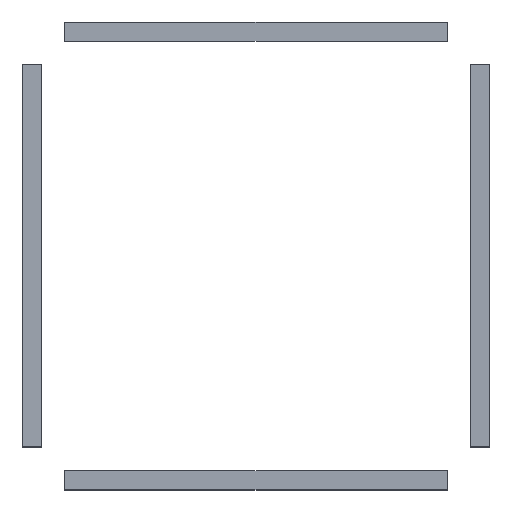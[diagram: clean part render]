
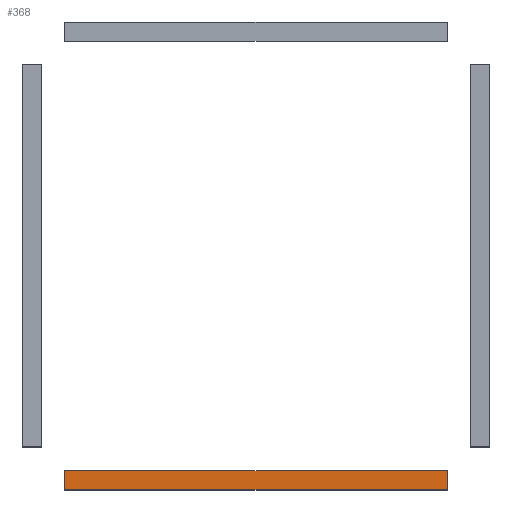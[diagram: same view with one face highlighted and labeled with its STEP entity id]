
A CAD part, top view. The second image highlights one B-rep face of the part: STEP entity #368.
In plain terms, the highlighted planar face has unit normal (0, 0, 1).
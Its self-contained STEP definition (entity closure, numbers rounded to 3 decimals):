
#54 = VERTEX_POINT('',#55);
#55 = CARTESIAN_POINT('',(-40.,-2.,1.5));
#62 = PLANE('',#63);
#63 = AXIS2_PLACEMENT_3D('',#64,#65,#66);
#64 = CARTESIAN_POINT('',(-40.,-2.,-1.5));
#65 = DIRECTION('',(1.,0.,-0.));
#66 = DIRECTION('',(0.,0.,1.));
#74 = PLANE('',#75);
#75 = AXIS2_PLACEMENT_3D('',#76,#77,#78);
#76 = CARTESIAN_POINT('',(-40.,-2.,-1.5));
#77 = DIRECTION('',(-0.,1.,0.));
#78 = DIRECTION('',(0.,0.,1.));
#115 = VERTEX_POINT('',#116);
#116 = CARTESIAN_POINT('',(-40.,2.,1.5));
#130 = PLANE('',#131);
#131 = AXIS2_PLACEMENT_3D('',#132,#133,#134);
#132 = CARTESIAN_POINT('',(-40.,2.,-1.5));
#133 = DIRECTION('',(-0.,1.,0.));
#134 = DIRECTION('',(0.,0.,1.));
#142 = EDGE_CURVE('',#54,#115,#143,.T.);
#143 = SURFACE_CURVE('',#144,(#148,#155),.PCURVE_S1.);
#144 = LINE('',#145,#146);
#145 = CARTESIAN_POINT('',(-40.,-2.,1.5));
#146 = VECTOR('',#147,1.);
#147 = DIRECTION('',(-0.,1.,0.));
#148 = PCURVE('',#62,#149);
#149 = DEFINITIONAL_REPRESENTATION('',(#150),#154);
#150 = LINE('',#151,#152);
#151 = CARTESIAN_POINT('',(3.,0.));
#152 = VECTOR('',#153,1.);
#153 = DIRECTION('',(0.,-1.));
#154 = ( GEOMETRIC_REPRESENTATION_CONTEXT(2) 
PARAMETRIC_REPRESENTATION_CONTEXT() REPRESENTATION_CONTEXT('2D SPACE',''
  ) );
#155 = PCURVE('',#156,#161);
#156 = PLANE('',#157);
#157 = AXIS2_PLACEMENT_3D('',#158,#159,#160);
#158 = CARTESIAN_POINT('',(-40.,-2.,1.5));
#159 = DIRECTION('',(0.,0.,1.));
#160 = DIRECTION('',(1.,0.,-0.));
#161 = DEFINITIONAL_REPRESENTATION('',(#162),#166);
#162 = LINE('',#163,#164);
#163 = CARTESIAN_POINT('',(0.,0.));
#164 = VECTOR('',#165,1.);
#165 = DIRECTION('',(0.,1.));
#166 = ( GEOMETRIC_REPRESENTATION_CONTEXT(2) 
PARAMETRIC_REPRESENTATION_CONTEXT() REPRESENTATION_CONTEXT('2D SPACE',''
  ) );
#174 = VERTEX_POINT('',#175);
#175 = CARTESIAN_POINT('',(40.,-2.,1.5));
#182 = PLANE('',#183);
#183 = AXIS2_PLACEMENT_3D('',#184,#185,#186);
#184 = CARTESIAN_POINT('',(40.,-2.,-1.5));
#185 = DIRECTION('',(1.,0.,-0.));
#186 = DIRECTION('',(0.,0.,1.));
#225 = VERTEX_POINT('',#226);
#226 = CARTESIAN_POINT('',(40.,2.,1.5));
#247 = EDGE_CURVE('',#174,#225,#248,.T.);
#248 = SURFACE_CURVE('',#249,(#253,#260),.PCURVE_S1.);
#249 = LINE('',#250,#251);
#250 = CARTESIAN_POINT('',(40.,-2.,1.5));
#251 = VECTOR('',#252,1.);
#252 = DIRECTION('',(-0.,1.,0.));
#253 = PCURVE('',#182,#254);
#254 = DEFINITIONAL_REPRESENTATION('',(#255),#259);
#255 = LINE('',#256,#257);
#256 = CARTESIAN_POINT('',(3.,0.));
#257 = VECTOR('',#258,1.);
#258 = DIRECTION('',(0.,-1.));
#259 = ( GEOMETRIC_REPRESENTATION_CONTEXT(2) 
PARAMETRIC_REPRESENTATION_CONTEXT() REPRESENTATION_CONTEXT('2D SPACE',''
  ) );
#260 = PCURVE('',#156,#261);
#261 = DEFINITIONAL_REPRESENTATION('',(#262),#266);
#262 = LINE('',#263,#264);
#263 = CARTESIAN_POINT('',(80.,0.));
#264 = VECTOR('',#265,1.);
#265 = DIRECTION('',(0.,1.));
#266 = ( GEOMETRIC_REPRESENTATION_CONTEXT(2) 
PARAMETRIC_REPRESENTATION_CONTEXT() REPRESENTATION_CONTEXT('2D SPACE',''
  ) );
#293 = EDGE_CURVE('',#54,#174,#294,.T.);
#294 = SURFACE_CURVE('',#295,(#299,#306),.PCURVE_S1.);
#295 = LINE('',#296,#297);
#296 = CARTESIAN_POINT('',(-40.,-2.,1.5));
#297 = VECTOR('',#298,1.);
#298 = DIRECTION('',(1.,0.,-0.));
#299 = PCURVE('',#74,#300);
#300 = DEFINITIONAL_REPRESENTATION('',(#301),#305);
#301 = LINE('',#302,#303);
#302 = CARTESIAN_POINT('',(3.,0.));
#303 = VECTOR('',#304,1.);
#304 = DIRECTION('',(0.,1.));
#305 = ( GEOMETRIC_REPRESENTATION_CONTEXT(2) 
PARAMETRIC_REPRESENTATION_CONTEXT() REPRESENTATION_CONTEXT('2D SPACE',''
  ) );
#306 = PCURVE('',#156,#307);
#307 = DEFINITIONAL_REPRESENTATION('',(#308),#312);
#308 = LINE('',#309,#310);
#309 = CARTESIAN_POINT('',(0.,0.));
#310 = VECTOR('',#311,1.);
#311 = DIRECTION('',(1.,0.));
#312 = ( GEOMETRIC_REPRESENTATION_CONTEXT(2) 
PARAMETRIC_REPRESENTATION_CONTEXT() REPRESENTATION_CONTEXT('2D SPACE',''
  ) );
#340 = EDGE_CURVE('',#115,#225,#341,.T.);
#341 = SURFACE_CURVE('',#342,(#346,#353),.PCURVE_S1.);
#342 = LINE('',#343,#344);
#343 = CARTESIAN_POINT('',(-40.,2.,1.5));
#344 = VECTOR('',#345,1.);
#345 = DIRECTION('',(1.,0.,-0.));
#346 = PCURVE('',#130,#347);
#347 = DEFINITIONAL_REPRESENTATION('',(#348),#352);
#348 = LINE('',#349,#350);
#349 = CARTESIAN_POINT('',(3.,0.));
#350 = VECTOR('',#351,1.);
#351 = DIRECTION('',(0.,1.));
#352 = ( GEOMETRIC_REPRESENTATION_CONTEXT(2) 
PARAMETRIC_REPRESENTATION_CONTEXT() REPRESENTATION_CONTEXT('2D SPACE',''
  ) );
#353 = PCURVE('',#156,#354);
#354 = DEFINITIONAL_REPRESENTATION('',(#355),#359);
#355 = LINE('',#356,#357);
#356 = CARTESIAN_POINT('',(0.,4.));
#357 = VECTOR('',#358,1.);
#358 = DIRECTION('',(1.,0.));
#359 = ( GEOMETRIC_REPRESENTATION_CONTEXT(2) 
PARAMETRIC_REPRESENTATION_CONTEXT() REPRESENTATION_CONTEXT('2D SPACE',''
  ) );
#368 = ADVANCED_FACE('',(#369),#156,.T.);
#369 = FACE_BOUND('',#370,.T.);
#370 = EDGE_LOOP('',(#371,#372,#373,#374));
#371 = ORIENTED_EDGE('',*,*,#142,.F.);
#372 = ORIENTED_EDGE('',*,*,#293,.T.);
#373 = ORIENTED_EDGE('',*,*,#247,.T.);
#374 = ORIENTED_EDGE('',*,*,#340,.F.);
